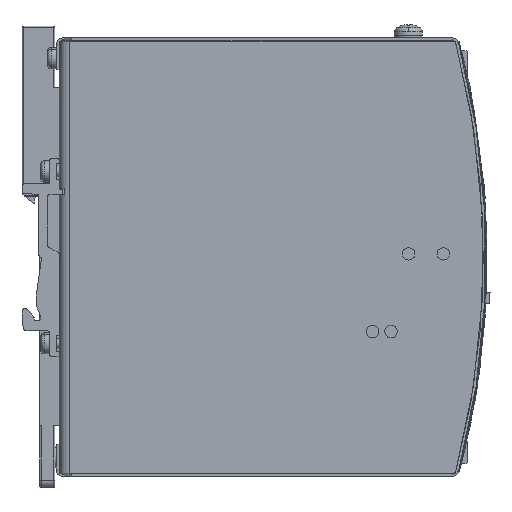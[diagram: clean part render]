
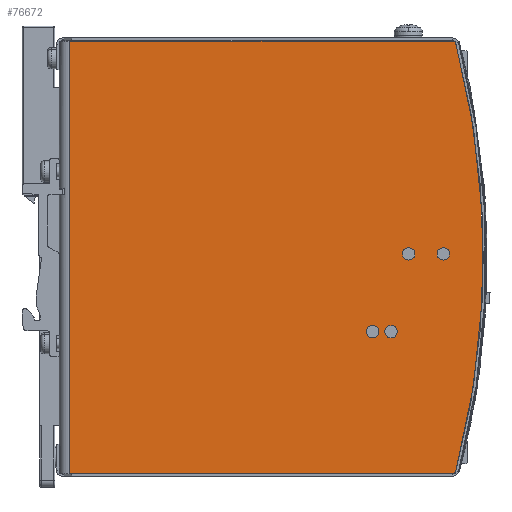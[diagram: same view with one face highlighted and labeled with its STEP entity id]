
A CAD part, left-side view. The second image highlights one B-rep face of the part: STEP entity #76672.
In plain terms, the highlighted planar face has unit normal (-1, 0, 0) as drawn and (1, 0, 0) by its records, which use the part's own axes.
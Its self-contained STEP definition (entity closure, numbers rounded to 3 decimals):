
#585 = CARTESIAN_POINT ( 'NONE',  ( 24., 108.7, -0.75 ) ) ;
#2093 = EDGE_LOOP ( 'NONE', ( #102666, #86621 ) ) ;
#2153 = VERTEX_POINT ( 'NONE', #56037 ) ;
#2169 = LINE ( 'NONE', #44755, #105472 ) ;
#2676 = AXIS2_PLACEMENT_3D ( 'NONE', #44126, #72341, #106902 ) ;
#2756 = ORIENTED_EDGE ( 'NONE', *, *, #11153, .F. ) ;
#5568 = VERTEX_POINT ( 'NONE', #63290 ) ;
#6642 = CARTESIAN_POINT ( 'NONE',  ( 24., 88.7, -22.75 ) ) ;
#7255 = EDGE_CURVE ( 'NONE', #93940, #100730, #67476, .T. ) ;
#7634 = DIRECTION ( 'NONE',  ( 0., 1., 0. ) ) ;
#7706 = AXIS2_PLACEMENT_3D ( 'NONE', #108735, #14695, #32303 ) ;
#8735 = LINE ( 'NONE', #33209, #104661 ) ;
#9694 = EDGE_CURVE ( 'NONE', #33315, #2153, #2169, .T. ) ;
#10038 = AXIS2_PLACEMENT_3D ( 'NONE', #82863, #39818, #67483 ) ;
#11022 = DIRECTION ( 'NONE',  ( 0., 0., -1. ) ) ;
#11153 = EDGE_CURVE ( 'NONE', #75676, #55227, #8735, .T. ) ;
#11249 = EDGE_LOOP ( 'NONE', ( #37268, #76093, #88046, #2756, #96884 ) ) ;
#11705 = CIRCLE ( 'NONE', #2676, 1.75 ) ;
#13582 = PLANE ( 'NONE',  #34956 ) ;
#14695 = DIRECTION ( 'NONE',  ( -1., 0., 0. ) ) ;
#15962 = CARTESIAN_POINT ( 'NONE',  ( 24., 93.9, -21. ) ) ;
#17331 = VERTEX_POINT ( 'NONE', #66952 ) ;
#18990 = DIRECTION ( 'NONE',  ( 1., 0., 0. ) ) ;
#19812 = CARTESIAN_POINT ( 'NONE',  ( 24., 108.7, 2.75 ) ) ;
#20428 = LINE ( 'NONE', #55551, #48016 ) ;
#23778 = FACE_OUTER_BOUND ( 'NONE', #11249, .T. ) ;
#24914 = CARTESIAN_POINT ( 'NONE',  ( 24., 98.9, 2.75 ) ) ;
#25856 = CIRCLE ( 'NONE', #59971, 1.75 ) ;
#29323 = ORIENTED_EDGE ( 'NONE', *, *, #91874, .F. ) ;
#31111 = CIRCLE ( 'NONE', #107019, 1.75 ) ;
#32303 = DIRECTION ( 'NONE',  ( 0., -1., 0. ) ) ;
#32340 = CIRCLE ( 'NONE', #50433, 1.75 ) ;
#32576 = DIRECTION ( 'NONE',  ( 0., -1., 0. ) ) ;
#33209 = CARTESIAN_POINT ( 'NONE',  ( 24., 0., 61.15 ) ) ;
#33315 = VERTEX_POINT ( 'NONE', #37590 ) ;
#34679 = CIRCLE ( 'NONE', #49141, 240. ) ;
#34956 = AXIS2_PLACEMENT_3D ( 'NONE', #66793, #39681, #48186 ) ;
#37268 = ORIENTED_EDGE ( 'NONE', *, *, #9694, .T. ) ;
#37492 = DIRECTION ( 'NONE',  ( 0., 0., -1. ) ) ;
#37590 = CARTESIAN_POINT ( 'NONE',  ( 24., 3., -61.15 ) ) ;
#38628 = CARTESIAN_POINT ( 'NONE',  ( 24., 108.7, 1. ) ) ;
#38690 = ORIENTED_EDGE ( 'NONE', *, *, #98263, .F. ) ;
#39681 = DIRECTION ( 'NONE',  ( -1., 0., 0. ) ) ;
#39818 = DIRECTION ( 'NONE',  ( 1., 0., 0. ) ) ;
#40810 = FACE_BOUND ( 'NONE', #82403, .T. ) ;
#41074 = DIRECTION ( 'NONE',  ( -1., 0., 0. ) ) ;
#42295 = CIRCLE ( 'NONE', #69308, 1.75 ) ;
#43192 = EDGE_CURVE ( 'NONE', #45869, #57841, #90266, .T. ) ;
#44126 = CARTESIAN_POINT ( 'NONE',  ( 24., 108.7, 1. ) ) ;
#44755 = CARTESIAN_POINT ( 'NONE',  ( 24., 0., -61.15 ) ) ;
#45639 = CARTESIAN_POINT ( 'NONE',  ( 24., 98.9, 1. ) ) ;
#45797 = DIRECTION ( 'NONE',  ( 1., 0., 0. ) ) ;
#45869 = VERTEX_POINT ( 'NONE', #109325 ) ;
#47447 = EDGE_LOOP ( 'NONE', ( #90043, #29323 ) ) ;
#47613 = FACE_BOUND ( 'NONE', #62997, .T. ) ;
#48016 = VECTOR ( 'NONE', #105941, 1000. ) ;
#48186 = DIRECTION ( 'NONE',  ( 0., -1., 0. ) ) ;
#49141 = AXIS2_PLACEMENT_3D ( 'NONE', #74466, #41074, #32576 ) ;
#49725 = DIRECTION ( 'NONE',  ( 0., 0., -1. ) ) ;
#50176 = EDGE_CURVE ( 'NONE', #65748, #57269, #31111, .T. ) ;
#50433 = AXIS2_PLACEMENT_3D ( 'NONE', #74056, #108602, #49725 ) ;
#52613 = DIRECTION ( 'NONE',  ( 0., 0., -1. ) ) ;
#55227 = VERTEX_POINT ( 'NONE', #99512 ) ;
#55309 = CIRCLE ( 'NONE', #10038, 1.75 ) ;
#55551 = CARTESIAN_POINT ( 'NONE',  ( 24., 3., 61.15 ) ) ;
#56037 = CARTESIAN_POINT ( 'NONE',  ( 24., 112.079, -61.15 ) ) ;
#56287 = CARTESIAN_POINT ( 'NONE',  ( 24., 3., 61.15 ) ) ;
#57220 = FACE_BOUND ( 'NONE', #47447, .T. ) ;
#57269 = VERTEX_POINT ( 'NONE', #6642 ) ;
#57841 = VERTEX_POINT ( 'NONE', #97803 ) ;
#58379 = EDGE_CURVE ( 'NONE', #75676, #33315, #20428, .T. ) ;
#59971 = AXIS2_PLACEMENT_3D ( 'NONE', #100673, #66136, #111386 ) ;
#61676 = CARTESIAN_POINT ( 'NONE',  ( 24., 88.7, -21. ) ) ;
#62997 = EDGE_LOOP ( 'NONE', ( #38690, #79539 ) ) ;
#63290 = CARTESIAN_POINT ( 'NONE',  ( 24., 98.9, -0.75 ) ) ;
#65696 = FACE_BOUND ( 'NONE', #2093, .T. ) ;
#65748 = VERTEX_POINT ( 'NONE', #71245 ) ;
#66136 = DIRECTION ( 'NONE',  ( 1., 0., 0. ) ) ;
#66793 = CARTESIAN_POINT ( 'NONE',  ( 24., 0., 61.15 ) ) ;
#66952 = CARTESIAN_POINT ( 'NONE',  ( 24., 120., 0. ) ) ;
#67476 = CIRCLE ( 'NONE', #80214, 1.75 ) ;
#67483 = DIRECTION ( 'NONE',  ( 0., 0., -1. ) ) ;
#68061 = DIRECTION ( 'NONE',  ( 0., 0., -1. ) ) ;
#69308 = AXIS2_PLACEMENT_3D ( 'NONE', #45639, #18990, #11022 ) ;
#71245 = CARTESIAN_POINT ( 'NONE',  ( 24., 88.7, -19.25 ) ) ;
#72341 = DIRECTION ( 'NONE',  ( 1., 0., 0. ) ) ;
#74056 = CARTESIAN_POINT ( 'NONE',  ( 24., 98.9, 1. ) ) ;
#74466 = CARTESIAN_POINT ( 'NONE',  ( 24., -120., 0. ) ) ;
#74663 = VERTEX_POINT ( 'NONE', #24914 ) ;
#75676 = VERTEX_POINT ( 'NONE', #56287 ) ;
#76093 = ORIENTED_EDGE ( 'NONE', *, *, #95999, .F. ) ;
#76669 = EDGE_CURVE ( 'NONE', #55227, #17331, #83772, .T. ) ;
#76672 = ADVANCED_FACE ( 'NONE', ( #40810, #47613, #57220, #65696, #23778 ), #13582, .F. ) ;
#78725 = DIRECTION ( 'NONE',  ( 0., 1., 0. ) ) ;
#79539 = ORIENTED_EDGE ( 'NONE', *, *, #86986, .F. ) ;
#80077 = EDGE_CURVE ( 'NONE', #57269, #65748, #55309, .T. ) ;
#80214 = AXIS2_PLACEMENT_3D ( 'NONE', #38628, #82227, #37492 ) ;
#81972 = ORIENTED_EDGE ( 'NONE', *, *, #7255, .F. ) ;
#82227 = DIRECTION ( 'NONE',  ( 1., 0., 0. ) ) ;
#82403 = EDGE_LOOP ( 'NONE', ( #81972, #93099 ) ) ;
#82863 = CARTESIAN_POINT ( 'NONE',  ( 24., 88.7, -21. ) ) ;
#83772 = CIRCLE ( 'NONE', #7706, 240. ) ;
#86621 = ORIENTED_EDGE ( 'NONE', *, *, #50176, .F. ) ;
#86986 = EDGE_CURVE ( 'NONE', #74663, #5568, #32340, .T. ) ;
#88046 = ORIENTED_EDGE ( 'NONE', *, *, #76669, .F. ) ;
#90043 = ORIENTED_EDGE ( 'NONE', *, *, #43192, .F. ) ;
#90266 = CIRCLE ( 'NONE', #92065, 1.75 ) ;
#91874 = EDGE_CURVE ( 'NONE', #57841, #45869, #25856, .T. ) ;
#92065 = AXIS2_PLACEMENT_3D ( 'NONE', #15962, #93035, #68061 ) ;
#93035 = DIRECTION ( 'NONE',  ( 1., 0., 0. ) ) ;
#93099 = ORIENTED_EDGE ( 'NONE', *, *, #110289, .F. ) ;
#93940 = VERTEX_POINT ( 'NONE', #585 ) ;
#95999 = EDGE_CURVE ( 'NONE', #17331, #2153, #34679, .T. ) ;
#96884 = ORIENTED_EDGE ( 'NONE', *, *, #58379, .T. ) ;
#97803 = CARTESIAN_POINT ( 'NONE',  ( 24., 93.9, -19.25 ) ) ;
#98263 = EDGE_CURVE ( 'NONE', #5568, #74663, #42295, .T. ) ;
#99512 = CARTESIAN_POINT ( 'NONE',  ( 24., 112.079, 61.15 ) ) ;
#100673 = CARTESIAN_POINT ( 'NONE',  ( 24., 93.9, -21. ) ) ;
#100730 = VERTEX_POINT ( 'NONE', #19812 ) ;
#102666 = ORIENTED_EDGE ( 'NONE', *, *, #80077, .F. ) ;
#104661 = VECTOR ( 'NONE', #7634, 1000. ) ;
#105472 = VECTOR ( 'NONE', #78725, 1000. ) ;
#105941 = DIRECTION ( 'NONE',  ( 0., 0., -1. ) ) ;
#106902 = DIRECTION ( 'NONE',  ( 0., 0., -1. ) ) ;
#107019 = AXIS2_PLACEMENT_3D ( 'NONE', #61676, #45797, #52613 ) ;
#108602 = DIRECTION ( 'NONE',  ( 1., 0., 0. ) ) ;
#108735 = CARTESIAN_POINT ( 'NONE',  ( 24., -120., 0. ) ) ;
#109325 = CARTESIAN_POINT ( 'NONE',  ( 24., 93.9, -22.75 ) ) ;
#110289 = EDGE_CURVE ( 'NONE', #100730, #93940, #11705, .T. ) ;
#111386 = DIRECTION ( 'NONE',  ( 0., 0., -1. ) ) ;
